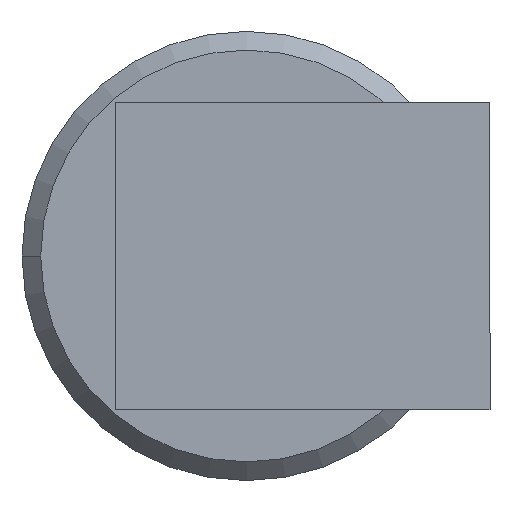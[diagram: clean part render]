
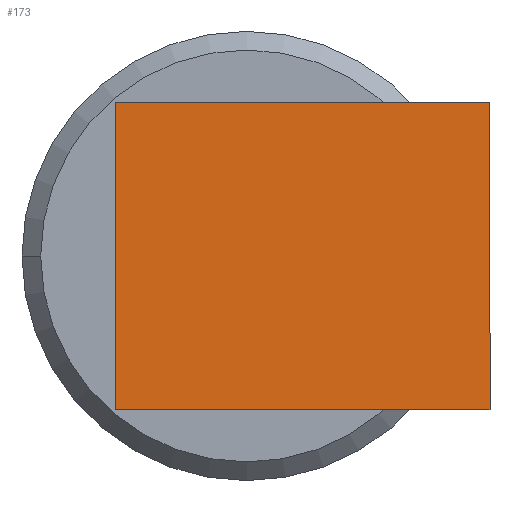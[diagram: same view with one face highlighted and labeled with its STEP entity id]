
A CAD part, left-side view. The second image highlights one B-rep face of the part: STEP entity #173.
In plain terms, the highlighted planar face has unit normal (-1, 0, 0).
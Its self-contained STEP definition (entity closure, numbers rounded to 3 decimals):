
#63 = PLANE ( 'NONE',  #3113 ) ;
#81 = VECTOR ( 'NONE', #499, 1000. ) ;
#173 = ADVANCED_FACE ( 'NONE', ( #1234 ), #63, .T. ) ;
#223 = ORIENTED_EDGE ( 'NONE', *, *, #974, .T. ) ;
#242 = CARTESIAN_POINT ( 'NONE',  ( -175., 3.5, -15. ) ) ;
#319 = DIRECTION ( 'NONE',  ( -1., 0., 0. ) ) ;
#387 = VECTOR ( 'NONE', #1809, 1000. ) ;
#438 = DIRECTION ( 'NONE',  ( 0., 1., 0. ) ) ;
#489 = EDGE_CURVE ( 'NONE', #1283, #1590, #2276, .T. ) ;
#499 = DIRECTION ( 'NONE',  ( 0., 1., 0. ) ) ;
#655 = CARTESIAN_POINT ( 'NONE',  ( -175., 3.5, 4.1 ) ) ;
#882 = EDGE_CURVE ( 'NONE', #1283, #2780, #3053, .T. ) ;
#974 = EDGE_CURVE ( 'NONE', #1590, #2346, #3094, .T. ) ;
#987 = EDGE_CURVE ( 'NONE', #2780, #2346, #3128, .T. ) ;
#1216 = CARTESIAN_POINT ( 'NONE',  ( -175., 3.5, -4.1 ) ) ;
#1234 = FACE_OUTER_BOUND ( 'NONE', #3300, .T. ) ;
#1273 = DIRECTION ( 'NONE',  ( 0., 0., 1. ) ) ;
#1283 = VERTEX_POINT ( 'NONE', #1344 ) ;
#1344 = CARTESIAN_POINT ( 'NONE',  ( -175., -6.5, -4.1 ) ) ;
#1518 = CARTESIAN_POINT ( 'NONE',  ( -175., -12.5, 4.1 ) ) ;
#1519 = ORIENTED_EDGE ( 'NONE', *, *, #489, .T. ) ;
#1590 = VERTEX_POINT ( 'NONE', #2239 ) ;
#1629 = DIRECTION ( 'NONE',  ( 0., -1., 0. ) ) ;
#1674 = VECTOR ( 'NONE', #438, 1000. ) ;
#1773 = ORIENTED_EDGE ( 'NONE', *, *, #987, .F. ) ;
#1809 = DIRECTION ( 'NONE',  ( 0., 0., 1. ) ) ;
#2233 = CARTESIAN_POINT ( 'NONE',  ( -175., -12.5, -4.1 ) ) ;
#2239 = CARTESIAN_POINT ( 'NONE',  ( -175., -6.5, 4.1 ) ) ;
#2276 = LINE ( 'NONE', #3172, #387 ) ;
#2302 = VECTOR ( 'NONE', #1273, 1000. ) ;
#2346 = VERTEX_POINT ( 'NONE', #655 ) ;
#2385 = ORIENTED_EDGE ( 'NONE', *, *, #882, .F. ) ;
#2780 = VERTEX_POINT ( 'NONE', #1216 ) ;
#3053 = LINE ( 'NONE', #2233, #1674 ) ;
#3094 = LINE ( 'NONE', #1518, #81 ) ;
#3113 = AXIS2_PLACEMENT_3D ( 'NONE', #3194, #319, #1629 ) ;
#3128 = LINE ( 'NONE', #242, #2302 ) ;
#3172 = CARTESIAN_POINT ( 'NONE',  ( -175., -6.5, -15. ) ) ;
#3194 = CARTESIAN_POINT ( 'NONE',  ( -175., 0., 0. ) ) ;
#3300 = EDGE_LOOP ( 'NONE', ( #2385, #1519, #223, #1773 ) ) ;
